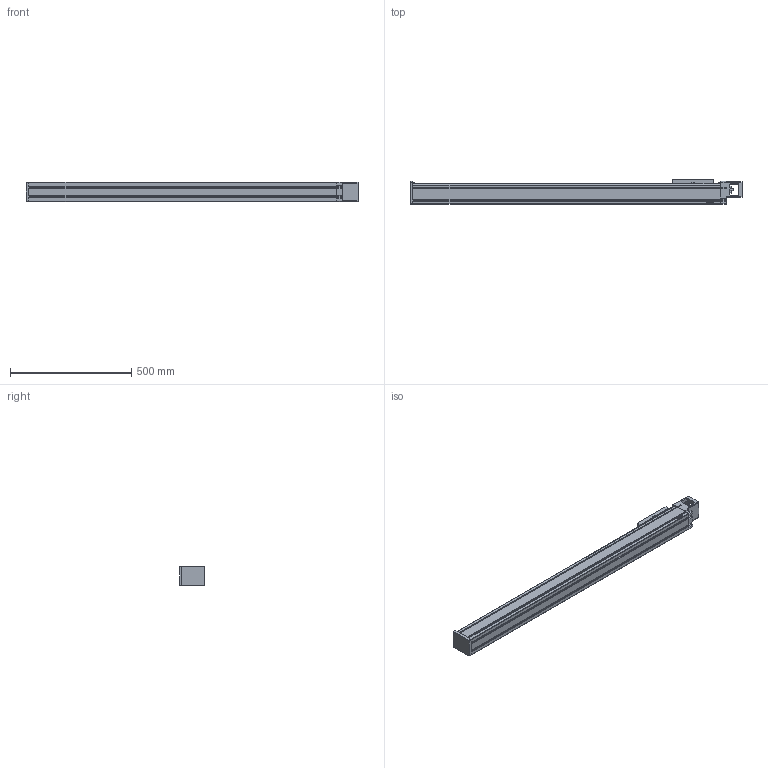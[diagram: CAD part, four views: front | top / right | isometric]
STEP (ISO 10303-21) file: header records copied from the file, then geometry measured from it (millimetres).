
FILE_DESCRIPTION(/* description */ (''),/* implementation_level */ '2;1');
FILE_NAME(/* name */ 'D:\混合母檔20191031\混和母檔\混和母檔\bin\Debug\Download\3D\KU80-20C-1050AF0\KU80-20C-1050AF0.stp',/* time_stamp */ '2019-11-04T17:29:45+08:00',/* author */ ('user'),/* organization */ (''),/* preprocessor_version */ 'ST-DEVELOPER v16.13',/* originating_system */ 'Autodesk Inventor 2018',/* authorisation */ '');
FILE_SCHEMA (('AUTOMOTIVE_DESIGN { 1 0 10303 214 3 1 1 }'));
Length unit declared in the file: millimetre
Products named in the file (3): KU80-20C-1050AF0; KU80-F0-BP; KU80-SL
Assembly tree (2 placements, depth 2):
  KU80-20C-1050AF0
    KU80-F0-BP
    KU80-SL
Bounding box: 1370 x 103 x 80 mm (x, y, z)
Volume: 8631836.6 mm3; surface area: 723265.8 mm2
Topology: 2 solids, 10 shells, 862 faces, 2315 edges, 1508 vertices
Faces by surface type: plane 509, bspline 136, cylinder 104, cone 81, torus 28, sphere 4
Full cylindrical faces by diameter (mm): 2.459 x4, 2.729 x4, 3 x4, 3.242 x4, 3.5 x4, 4.134 x16, 5 x4, 5.5 x8, 5.6 x2, 8 x1, 8.5 x4, 12 x1, 46.5 x1
Entity records: 27990 total; most frequent: CARTESIAN_POINT 7413, ORIENTED_EDGE 4362, DIRECTION 3790, EDGE_CURVE 2181, VERTEX_POINT 1469, LINE 1298, VECTOR 1298, AXIS2_PLACEMENT_3D 1246
